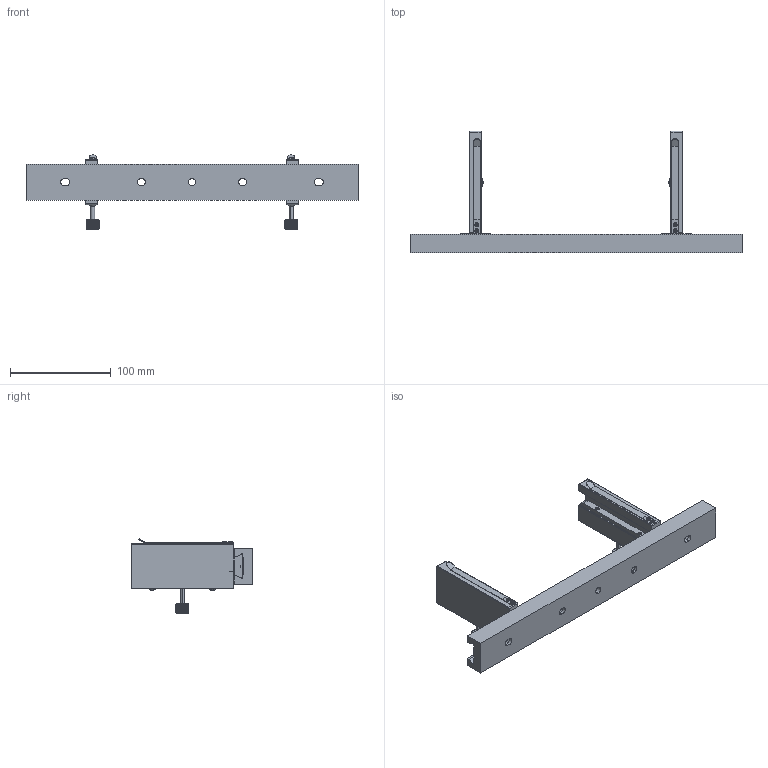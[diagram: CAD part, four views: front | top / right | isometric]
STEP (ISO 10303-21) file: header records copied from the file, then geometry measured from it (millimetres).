
FILE_DESCRIPTION (( 'STEP AP203' ), '1' );
FILE_NAME ('(Step)M-PLH-A.STEP', '2020-11-17T08:17:15', ( '' ), ( '' ), 'SwSTEP 2.0', 'SolidWorks 2019', '' );
FILE_SCHEMA (( 'CONFIG_CONTROL_DESIGN' ));
Products named in the file (1): (Step)M-PLH-A
Bounding box: 330 x 121 x 73.71 mm (x, y, z)
Volume: 257031 mm3; surface area: 91951.2 mm2
Topology: 25 solids, 25 shells, 981 faces, 2528 edges, 1638 vertices
Faces by surface type: plane 597, cylinder 328, cone 36, torus 12, bspline 8
Entity records: 56963 total; most frequent: CARTESIAN_POINT 33466, ORIENTED_EDGE 5016, DIRECTION 4610, EDGE_CURVE 2508, VERTEX_POINT 1638, AXIS2_PLACEMENT_3D 1626, LINE 1358, VECTOR 1358
